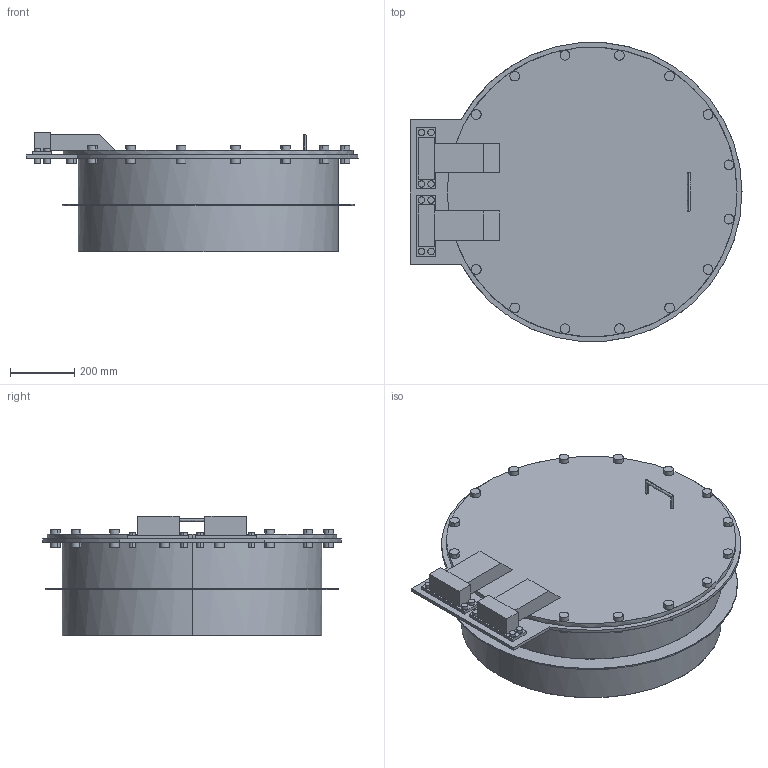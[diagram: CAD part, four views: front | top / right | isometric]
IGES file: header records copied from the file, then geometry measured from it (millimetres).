
Start section:  PTC IGES file: 51544707.igs
Global section: file name: 51544707.igs; native system: Creo Parametric by PTC Inc.; preprocessor: 2019224; author: ka; organization: Unknown; date: 20201022.090933; units: millimetre
Bounding box: 1031.5 x 928.33 x 370 mm (x, y, z)
Surface area: 3480569.7 mm2 (no closed solid volume)
Topology: 0 solids, 0 shells, 195 faces, 832 edges, 832 vertices
Faces by surface type: revolution 109, bspline 86
